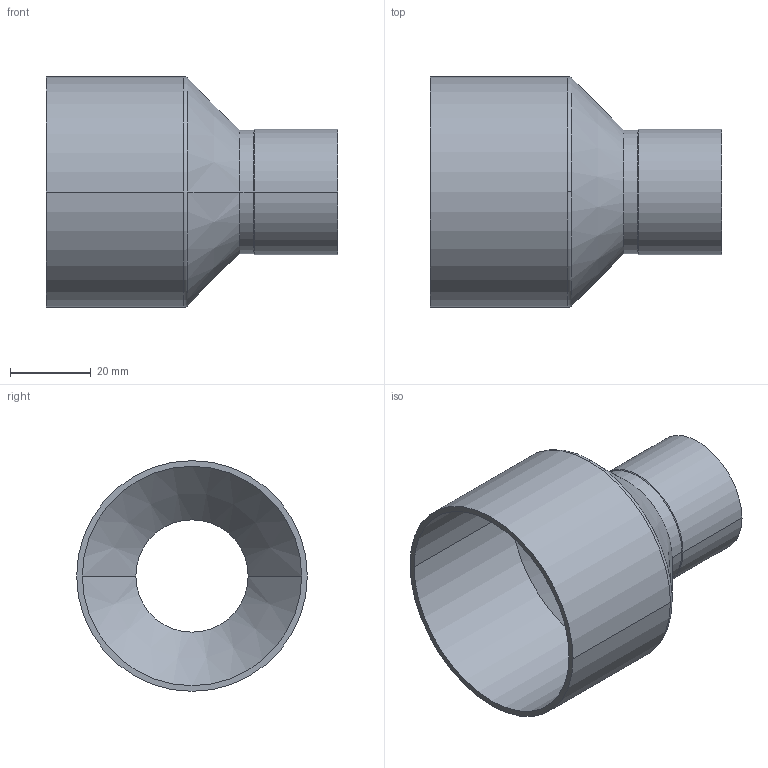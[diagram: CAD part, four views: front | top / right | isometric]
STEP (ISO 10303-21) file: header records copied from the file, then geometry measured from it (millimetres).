
FILE_DESCRIPTION((''),'2;1');
FILE_NAME('G:\Technics\CAD\Bauteile\Serie 15240\152405428.stp','2005-10-21T12:51:16',('boden'),(''),'Autodesk Inventor 8','Autodesk Inventor 8','');
FILE_SCHEMA(('AUTOMOTIVE_DESIGN { 1 0 10303 214 1 1 1 1 }'));
Length unit declared in the file: millimetre
Products named in the file (1): 152405428
Bounding box: 72 x 56.95 x 56.95 mm (x, y, z)
Volume: 15034.7 mm3; surface area: 21852.1 mm2
Topology: 1 solids, 1 shells, 24 faces, 52 edges, 30 vertices
Faces by surface type: cylinder 12, cone 8, torus 2, plane 2
Entity records: 683 total; most frequent: DIRECTION 134, CARTESIAN_POINT 107, ORIENTED_EDGE 104, AXIS2_PLACEMENT_3D 57, EDGE_CURVE 52, CIRCLE 32, VERTEX_POINT 30, EDGE_LOOP 26
